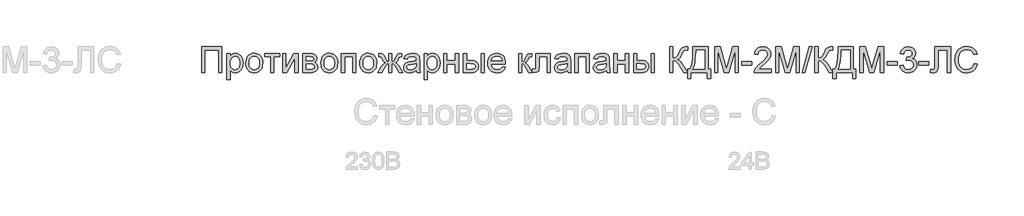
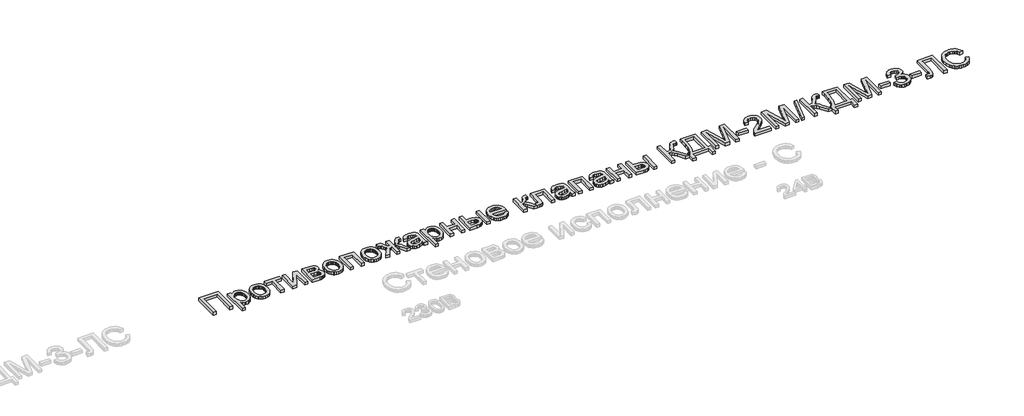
# One storey, part 17 of 23: 1 proxy.
"""IFC4 building model written with IfcOpenShell, lengths in millimetres."""

from ifc_helpers import new_model, si_unit, origin, origin_with_axes, place, context, project, spatial, polyline, outline, extrude, element, save

model = new_model("IFC4")

# Units and contexts
model_context = context("Model", 3, world=origin())
ifc_project = project(units=[si_unit("LENGTHUNIT", "METRE", prefix="MILLI")], contexts=[model_context])

# Site, building, storey
site = spatial("IfcSite", under=ifc_project)
building = spatial("IfcBuilding", under=site)
storey = spatial("IfcBuildingStorey", under=building, Name="Этаж 01", Elevation=0.0)

# Proxy
placement = place(None, origin())
element("IfcBuildingElementProxy", 1, Name="450 мм Arial", ObjectType="450 мм Arial", at=placement, inside=storey, context=model_context, shape_type="SweptSolid", body=[
    extrude(outline(polyline([(15947.7209967, -11762.9519857), (16299.0148583, -11762.9519857), (16299.0148583, -12212.6081285), (16242.8078404, -12212.6081285), (16242.8078404, -11819.1590035), (16003.9280146, -11819.1590035), (16003.9280146, -12212.6081285), (15947.7209967, -12212.6081285), (15947.7209967, -11762.9519857)])), origin_with_axes(), (0.0, 0.0, 1.0), 50.0),
    extrude(outline(polyline([(16390.3512623, -12339.0739187), (16390.3512623, -11882.3918986), (16446.5582802, -11882.3918986), (16446.5582802, -11937.5011231), (16464.8914286, -11910.3170161), (16485.4201636, -11890.8997968), (16509.3520579, -11879.2494652), (16537.8946842, -11875.3660214), (16575.9057778, -11880.8000983), (16609.1414705, -11897.1023291), (16636.2020757, -11923.2846997), (16655.6879071, -11958.3591962), (16667.4617405, -11999.7734491), (16671.3863516, -12044.9750889), (16666.954011, -12093.0447138), (16653.6569895, -12136.0370446), (16631.9206818, -12171.7702171), (16602.1704829, -12198.062367), (16567.5213813, -12214.241096), (16531.0883656, -12219.6340057), (16505.2490554, -12216.0250102), (16482.1816733, -12205.1980236), (16462.435116, -12188.8546256), (16446.5582802, -12168.6963958), (16446.5582802, -12339.0739187), (16390.3512623, -12339.0739187)]), holes=[polyline([(16446.5582802, -12050.1347175), (16448.0780378, -12077.2227676), (16452.6373106, -12100.5234308), (16460.2360988, -12120.036707), (16470.8744021, -12135.7625963), (16483.6808473, -12147.8657676), (16497.7840608, -12156.51089), (16513.1840427, -12161.6979634), (16529.8807929, -12163.4269879), (16546.8176855, -12161.6362125), (16562.4989769, -12156.2638865), (16576.9246672, -12147.3100097), (16590.0947564, -12134.7745823), (16601.069259, -12118.4792127), (16608.9081894, -12098.2455096), (16613.6115476, -12074.073473), (16615.1793337, -12045.9631029), (16613.6492843, -12019.1083339), (16609.059136, -11995.848838), (16601.4088888, -11976.1846152), (16590.6985427, -11960.1156655), (16577.8612221, -11947.6282665), (16563.8300513, -11938.7086958), (16548.6050302, -11933.3569534), (16532.1861589, -11931.5730392), (16515.8187467, -11933.4701633), (16500.4187648, -11939.1615355), (16485.9862133, -11948.6471559), (16472.5210921, -11961.9270245), (16461.1623619, -11978.8227497), (16453.0489831, -11999.1559403), (16448.1809559, -12022.9265963), (16446.5582802, -12050.1347175)])]), origin_with_axes(), (0.0, 0.0, 1.0), 50.0),
    extrude(outline(polyline([(16720.5674922, -12047.5000135), (16723.6070074, -12004.7341026), (16732.7255532, -11967.8825532), (16747.9231294, -11936.9453653), (16769.1997361, -11911.9225388), (16790.6204282, -11895.9290624), (16814.2641518, -11884.5051507), (16840.1309069, -11877.6508037), (16868.2206934, -11875.3660214), (16899.229924, -11878.1482413), (16927.2682514, -11886.4949011), (16952.3356757, -11900.4060008), (16974.4321968, -11919.8815404), (16992.4668827, -11944.2628439), (17005.3488011, -11972.8912352), (17013.0779522, -12005.7667145), (17015.6543359, -12042.8892816), (17011.0984936, -12099.672641), (17005.4036908, -12122.9801653), (16997.4309668, -12142.8982528), (16975.0497056, -12175.2694333), (16944.3526599, -12199.4894983), (16907.8921994, -12214.5978789), (16868.2206934, -12219.6340057), (16836.758623, -12216.8620776), (16808.4595697, -12208.5462932), (16783.3235333, -12194.6866526), (16761.3505139, -12175.2831557), (16743.5079419, -12150.6651405), (16730.7632476, -12121.1619451), (16723.116431, -12086.7735695), (16720.5674922, -12047.5000135)]), holes=[polyline([(16776.77451, -12047.3902342), (16778.4006164, -12074.6532451), (16783.2789354, -12098.2592321), (16791.4094672, -12118.208195), (16802.7922117, -12134.5001339), (16816.6381299, -12147.1556325), (16832.1581829, -12156.1952744), (16849.3523707, -12161.6190595), (16868.2206934, -12163.4269879), (16886.9929591, -12161.6087677), (16904.1185349, -12156.1541071), (16919.5974206, -12147.0630062), (16933.4296164, -12134.335465), (16944.8123609, -12117.8822876), (16952.9428926, -12097.6142785), (16957.8212117, -12073.5314376), (16959.4473181, -12045.6337649), (16957.8109199, -12019.2352662), (16952.9017254, -11996.246788), (16944.7197346, -11976.6683303), (16933.2649474, -11960.4998931), (16919.3812926, -11947.8443946), (16903.9126986, -11938.8047527), (16886.8591655, -11933.3809676), (16868.2206934, -11931.5730392), (16849.3523707, -11933.3741064), (16832.1581829, -11938.7773079), (16816.6381299, -11947.7826437), (16802.7922117, -11960.3901138), (16791.4094672, -11976.6340243), (16783.2789354, -11996.5486812), (16778.4006164, -12020.1340845), (16776.77451, -12047.3902342)])]), origin_with_axes(), (0.0, 0.0, 1.0), 50.0),
    extrude(outline(polyline([(17050.7837221, -11882.3918986), (17317.7670569, -11882.3918986), (17317.7670569, -11938.5989165), (17212.3788984, -11938.5989165), (17212.3788984, -12212.6081285), (17156.1718805, -12212.6081285), (17156.1718805, -11938.5989165), (17050.7837221, -11938.5989165), (17050.7837221, -11882.3918986)])), origin_with_axes(), (0.0, 0.0, 1.0), 50.0),
    extrude(outline(polyline([(17366.9481975, -11882.3918986), (17423.1552153, -11882.3918986), (17423.1552153, -12134.2256856), (17561.2576147, -11882.3918986), (17633.9315323, -11882.3918986), (17633.9315323, -12212.6081285), (17577.7245144, -12212.6081285), (17577.7245144, -11962.3112521), (17440.5003497, -12212.6081285), (17366.9481975, -12212.6081285), (17366.9481975, -11882.3918986)])), origin_with_axes(), (0.0, 0.0, 1.0), 50.0),
    extrude(outline(polyline([(17718.2420591, -11882.3918986), (17842.0731453, -11882.3918986), (17881.8818754, -11884.2718697), (17909.9716619, -11889.9117828), (17930.6376211, -11900.560378), (17948.1748694, -11917.4663951), (17960.154539, -11939.4908735), (17964.1477622, -11965.4948527), (17961.7326169, -11986.4489827), (17954.487181, -12004.5214052), (17942.3840096, -12019.7944547), (17925.3956581, -12032.3504658), (17946.1988414, -12044.0282422), (17963.1597482, -12062.8142303), (17974.4395745, -12087.2264092), (17978.1995166, -12115.7827579), (17975.0776669, -12138.7883891), (17968.6761596, -12158.6241421), (17958.9949948, -12175.2900169), (17946.0341724, -12188.7860135), (17929.7731089, -12199.2081888), (17910.1912206, -12206.6525997), (17887.2885075, -12211.1192463), (17861.0649697, -12212.6081285), (17718.2420591, -12212.6081285), (17718.2420591, -11882.3918986)]), holes=[polyline([(17774.4490769, -12156.4011106), (17843.3904972, -12156.4011106), (17880.9624735, -12153.8624636), (17904.537585, -12146.2465224), (17917.189653, -12132.4006042), (17921.9924988, -12111.172026), (17919.5910759, -12097.1065491), (17912.3868072, -12084.1114207), (17901.3265396, -12073.9431101), (17887.3571196, -12068.3580866), (17837.9015307, -12065.0647066), (17774.4490769, -12065.0647066), (17774.4490769, -12156.4011106)]), polyline([(17774.4490769, -12008.8576888), (17829.9974188, -12008.8576888), (17875.8302898, -12006.0034261), (17898.1154941, -11994.5863756), (17905.4844318, -11985.1453531), (17907.9407443, -11973.9478613), (17903.6319055, -11957.1790684), (17890.7053892, -11946.393249), (17867.3498364, -11940.5474996), (17831.7538881, -11938.5989165), (17774.4490769, -11938.5989165), (17774.4490769, -12008.8576888)])]), origin_with_axes(), (0.0, 0.0, 1.0), 50.0),
    extrude(outline(polyline([(18034.4065345, -12047.5000135), (18037.4460497, -12004.7341026), (18046.5645955, -11967.8825532), (18061.7621717, -11936.9453653), (18083.0387784, -11911.9225388), (18104.4594705, -11895.9290624), (18128.1031941, -11884.5051507), (18153.9699492, -11877.6508037), (18182.0597357, -11875.3660214), (18213.0689663, -11878.1482413), (18241.1072937, -11886.4949011), (18266.174718, -11900.4060008), (18288.2712391, -11919.8815404), (18306.305925, -11944.2628439), (18319.1878434, -11972.8912352), (18326.9169945, -12005.7667145), (18329.4933782, -12042.8892816), (18324.9375359, -12099.672641), (18319.2427331, -12122.9801653), (18311.2700091, -12142.8982528), (18288.8887479, -12175.2694333), (18258.1917022, -12199.4894983), (18221.7312417, -12214.5978789), (18182.0597357, -12219.6340057), (18150.5976653, -12216.8620776), (18122.298612, -12208.5462932), (18097.1625756, -12194.6866526), (18075.1895562, -12175.2831557), (18057.3469842, -12150.6651405), (18044.6022899, -12121.1619451), (18036.9554733, -12086.7735695), (18034.4065345, -12047.5000135)]), holes=[polyline([(18090.6135523, -12047.3902342), (18092.2396587, -12074.6532451), (18097.1179777, -12098.2592321), (18105.2485095, -12118.208195), (18116.631254, -12134.5001339), (18130.4771722, -12147.1556325), (18145.9972252, -12156.1952744), (18163.191413, -12161.6190595), (18182.0597357, -12163.4269879), (18200.8320014, -12161.6087677), (18217.9575771, -12156.1541071), (18233.4364629, -12147.0630062), (18247.2686587, -12134.335465), (18258.6514032, -12117.8822876), (18266.7819349, -12097.6142785), (18271.660254, -12073.5314376), (18273.2863603, -12045.6337649), (18271.6499622, -12019.2352662), (18266.7407677, -11996.246788), (18258.5587769, -11976.6683303), (18247.1039897, -11960.4998931), (18233.2203349, -11947.8443946), (18217.7517409, -11938.8047527), (18200.6982078, -11933.3809676), (18182.0597357, -11931.5730392), (18163.191413, -11933.3741064), (18145.9972252, -11938.7773079), (18130.4771722, -11947.7826437), (18116.631254, -11960.3901138), (18105.2485095, -11976.6340243), (18097.1179777, -11996.5486812), (18092.2396587, -12020.1340845), (18090.6135523, -12047.3902342)])]), origin_with_axes(), (0.0, 0.0, 1.0), 50.0),
    extrude(outline(polyline([(18392.7262733, -11882.3918986), (18645.6578536, -11882.3918986), (18645.6578536, -12212.6081285), (18589.4508358, -12212.6081285), (18589.4508358, -11938.5989165), (18448.9332911, -11938.5989165), (18448.9332911, -12212.6081285), (18392.7262733, -12212.6081285), (18392.7262733, -11882.3918986)])), origin_with_axes(), (0.0, 0.0, 1.0), 50.0),
    extrude(outline(polyline([(18715.9166259, -12047.5000135), (18718.9561412, -12004.7341026), (18728.0746869, -11967.8825532), (18743.2722632, -11936.9453653), (18764.5488699, -11911.9225388), (18785.969562, -11895.9290624), (18809.6132856, -11884.5051507), (18835.4800406, -11877.6508037), (18863.5698271, -11875.3660214), (18894.5790577, -11878.1482413), (18922.6173852, -11886.4949011), (18947.6848095, -11900.4060008), (18969.7813306, -11919.8815404), (18987.8160164, -11944.2628439), (19000.6979349, -11972.8912352), (19008.427086, -12005.7667145), (19011.0034697, -12042.8892816), (19006.4476274, -12099.672641), (19000.7528246, -12122.9801653), (18992.7801006, -12142.8982528), (18970.3988393, -12175.2694333), (18939.7017937, -12199.4894983), (18903.2413331, -12214.5978789), (18863.5698271, -12219.6340057), (18832.1077568, -12216.8620776), (18803.8087034, -12208.5462932), (18778.672667, -12194.6866526), (18756.6996477, -12175.2831557), (18738.8570757, -12150.6651405), (18726.1123814, -12121.1619451), (18718.4655648, -12086.7735695), (18715.9166259, -12047.5000135)]), holes=[polyline([(18772.1236438, -12047.3902342), (18773.7497501, -12074.6532451), (18778.6280692, -12098.2592321), (18786.7586009, -12118.208195), (18798.1413454, -12134.5001339), (18811.9872636, -12147.1556325), (18827.5073166, -12156.1952744), (18844.7015045, -12161.6190595), (18863.5698271, -12163.4269879), (18882.3420929, -12161.6087677), (18899.4676686, -12156.1541071), (18914.9465544, -12147.0630062), (18928.7787502, -12134.335465), (18940.1614946, -12117.8822876), (18948.2920264, -12097.6142785), (18953.1703455, -12073.5314376), (18954.7964518, -12045.6337649), (18953.1600536, -12019.2352662), (18948.2508591, -11996.246788), (18940.0688683, -11976.6683303), (18928.6140812, -11960.4998931), (18914.7304263, -11947.8443946), (18899.2618324, -11938.8047527), (18882.2082993, -11933.3809676), (18863.5698271, -11931.5730392), (18844.7015045, -11933.3741064), (18827.5073166, -11938.7773079), (18811.9872636, -11947.7826437), (18798.1413454, -11960.3901138), (18786.7586009, -11976.6340243), (18778.6280692, -11996.5486812), (18773.7497501, -12020.1340845), (18772.1236438, -12047.3902342)])]), origin_with_axes(), (0.0, 0.0, 1.0), 50.0),
    extrude(outline(polyline([(19277.9868045, -11882.3918986), (19277.9868045, -12022.9094432), (19297.8156963, -12020.0140134), (19310.755935, -12011.3277237), (19341.7685962, -11951.2235396), (19361.1172034, -11913.7613426), (19378.764231, -11893.5893904), (19400.1986455, -11885.1912716), (19431.3485309, -11882.3918986), (19453.6337352, -11882.3918986), (19453.6337352, -11938.9282545), (19438.1548495, -11938.5989165), (19419.6021424, -11940.0534926), (19409.1731059, -11944.417221), (19389.0834882, -11980.8639592), (19376.9391496, -12005.2898605), (19365.7553802, -12020.8236359), (19352.074131, -12031.4447863), (19332.437353, -12041.1328123), (19350.9283092, -12049.0437854), (19369.1859843, -12063.0063442), (19387.2103783, -12083.0204886), (19405.0014913, -12109.0862187), (19467.6854897, -12212.6081285), (19403.245022, -12212.6081285), (19341.5490375, -12110.51335), (19324.6841877, -12083.7134706), (19310.097259, -12068.0836382), (19295.3456613, -12060.5500316), (19277.9868045, -12058.0388294), (19277.9868045, -12212.6081285), (19221.7797866, -12212.6081285), (19221.7797866, -12058.0388294), (19204.5581539, -12060.4951419), (19189.7791114, -12067.8640796), (19175.0824034, -12083.3841326), (19158.1077742, -12110.2937913), (19096.4117898, -12212.6081285), (19032.0811014, -12212.6081285), (19094.5455411, -12109.0862187), (19112.4876006, -12083.0204886), (19130.6354964, -12063.0063442), (19148.9892284, -12049.0437854), (19167.5487967, -12041.1328123), (19146.0869374, -12030.3744378), (19132.1998519, -12018.7378286), (19119.5752287, -11998.2914281), (19101.9007563, -11961.1036795), (19094.7376549, -11948.7260598), (19087.0805466, -11942.1118551), (19062.8193142, -11938.2695785), (19046.1328558, -11938.5989165), (19046.1328558, -11882.3918986), (19054.5858644, -11882.3918986), (19103.8767843, -11885.9048372), (19117.4070869, -11891.3938038), (19129.4553686, -11900.8348263), (19142.2721056, -11919.1405299), (19158.1077742, -11951.2235396), (19188.7910974, -12010.9434961), (19201.7313361, -12019.9179564), (19221.7797866, -12022.9094432), (19221.7797866, -11882.3918986), (19277.9868045, -11882.3918986)])), origin_with_axes(), (0.0, 0.0, 1.0), 50.0),
    extrude(outline(polyline([(19706.5653156, -12170.4528651), (19679.7105465, -12193.4790799), (19652.0598774, -12208.5462932), (19622.9820769, -12216.8620776), (19591.8459139, -12219.6340057), (19566.8196569, -12217.9667321), (19544.8740823, -12212.9649113), (19526.0091903, -12204.6285433), (19510.2249808, -12192.9576281), (19497.761596, -12178.6931762), (19488.8591783, -12162.576198), (19483.5177277, -12144.6066937), (19481.7372442, -12124.7846631), (19484.4268378, -12101.4839999), (19492.4956187, -12080.3240337), (19504.9418504, -12062.210444), (19520.7637966, -12048.0489102), (19539.3576709, -12037.3454254), (19560.119687, -12029.6059825), (19608.751931, -12021.1529739), (19666.2214112, -12012.2608481), (19706.2359776, -12001.8318115), (19706.5653156, -11989.3169677), (19702.6955941, -11964.2323904), (19691.0864298, -11947.8203803), (19665.1236178, -11935.6348745), (19628.951328, -11931.5730392), (19595.4686319, -11934.2763553), (19572.0856342, -11942.3863034), (19556.1401863, -11957.3849046), (19544.9701393, -11980.7541798), (19488.7631214, -11973.7283026), (19498.5197595, -11942.9900897), (19513.0792434, -11918.8386367), (19533.8000922, -11900.3682642), (19562.0408253, -11886.6732925), (19596.5801476, -11878.1928392), (19636.1967639, -11875.3660214), (19674.1941351, -11877.8635012), (19704.3148393, -11885.3559406), (19727.0254385, -11896.6220445), (19742.7924951, -11910.4405179), (19753.2489764, -11927.5249264), (19760.0278501, -11948.5888356), (19762.7723334, -11997.7699763), (19762.7723334, -12067.6994106), (19765.6265961, -12165.3481262), (19776.8240879, -12212.6081285), (19720.61707, -12212.6081285), (19711.6151648, -12193.0674074), (19706.5653156, -12170.4528651)]), holes=[polyline([(19706.5653156, -12058.0388294), (19668.8012255, -12067.3975174), (19615.8875876, -12075.2741845), (19567.5297919, -12084.385869), (19554.946336, -12090.6158461), (19545.6288152, -12099.2060788), (19539.8654003, -12109.4978911), (19537.944262, -12120.8326071), (19542.129599, -12137.5465104), (19554.6856101, -12151.241482), (19575.3378469, -12160.3806114), (19603.8118611, -12163.4269879), (19634.0011773, -12160.0649958), (19660.6775549, -12149.9790197), (19682.3040833, -12135.1176427), (19697.3438517, -12117.4294479), (19704.0129461, -12099.2060788), (19706.2359776, -12073.9568325), (19706.5653156, -12058.0388294)])]), origin_with_axes(), (0.0, 0.0, 1.0), 50.0),
    extrude(outline(polyline([(19840.056983, -12339.0739187), (19840.056983, -11882.3918986), (19896.2640008, -11882.3918986), (19896.2640008, -11937.5011231), (19914.5971492, -11910.3170161), (19935.1258843, -11890.8997968), (19959.0577786, -11879.2494652), (19987.6004048, -11875.3660214), (20025.6114985, -11880.8000983), (20058.8471911, -11897.1023291), (20085.9077964, -11923.2846997), (20105.3936278, -11958.3591962), (20117.1674611, -11999.7734491), (20121.0920722, -12044.9750889), (20116.6597317, -12093.0447138), (20103.3627102, -12136.0370446), (20081.6264025, -12171.7702171), (20051.8762036, -12198.062367), (20017.227102, -12214.241096), (19980.7940863, -12219.6340057), (19954.9547761, -12216.0250102), (19931.887394, -12205.1980236), (19912.1408367, -12188.8546256), (19896.2640008, -12168.6963958), (19896.2640008, -12339.0739187), (19840.056983, -12339.0739187)]), holes=[polyline([(19896.2640008, -12050.1347175), (19897.7837585, -12077.2227676), (19902.3430313, -12100.5234308), (19909.9418194, -12120.036707), (19920.5801228, -12135.7625963), (19933.386568, -12147.8657676), (19947.4897815, -12156.51089), (19962.8897634, -12161.6979634), (19979.5865136, -12163.4269879), (19996.5234061, -12161.6362125), (20012.2046976, -12156.2638865), (20026.6303879, -12147.3100097), (20039.8004771, -12134.7745823), (20050.7749797, -12118.4792127), (20058.6139101, -12098.2455096), (20063.3172683, -12074.073473), (20064.8850544, -12045.9631029), (20063.3550049, -12019.1083339), (20058.7648566, -11995.848838), (20051.1146095, -11976.1846152), (20040.4042634, -11960.1156655), (20027.5669428, -11947.6282665), (20013.535772, -11938.7086958), (19998.3107509, -11933.3569534), (19981.8918796, -11931.5730392), (19965.5244673, -11933.4701633), (19950.1244855, -11939.1615355), (19935.6919339, -11948.6471559), (19922.2268128, -11961.9270245), (19910.8680826, -11978.8227497), (19902.7547038, -11999.1559403), (19897.8866766, -12022.9265963), (19896.2640008, -12050.1347175)])]), origin_with_axes(), (0.0, 0.0, 1.0), 50.0),
    extrude(outline(polyline([(20184.3249673, -11882.3918986), (20240.5319852, -11882.3918986), (20240.5319852, -12008.8576888), (20388.075407, -12008.8576888), (20388.075407, -11882.3918986), (20444.2824249, -11882.3918986), (20444.2824249, -12212.6081285), (20388.075407, -12212.6081285), (20388.075407, -12065.0647066), (20240.5319852, -12065.0647066), (20240.5319852, -12212.6081285), (20184.3249673, -12212.6081285), (20184.3249673, -11882.3918986)])), origin_with_axes(), (0.0, 0.0, 1.0), 50.0),
    extrude(outline(polyline([(20528.5929517, -11882.3918986), (20584.7999695, -11882.3918986), (20584.7999695, -12001.8318115), (20654.2902865, -12001.8318115), (20686.2669475, -12003.5917115), (20714.3533034, -12008.8714112), (20738.5493542, -12017.6709107), (20758.8551, -12029.9902101), (20774.9206191, -12045.4039144), (20786.3959898, -12063.4866287), (20793.2812123, -12084.238353), (20795.5762865, -12107.6590873), (20793.6517176, -12128.554897), (20787.8780108, -12147.87949), (20778.2551663, -12165.6328663), (20764.7831839, -12181.8150259), (20747.0846973, -12195.2870083), (20724.7823399, -12204.9098528), (20697.8761118, -12210.6835596), (20666.366013, -12212.6081285), (20528.5929517, -12212.6081285), (20528.5929517, -11882.3918986)]), holes=[polyline([(20584.7999695, -12156.4011106), (20642.543898, -12156.4011106), (20687.3064205, -12153.4507911), (20717.0840643, -12144.5998325), (20733.7979675, -12129.4914519), (20739.3692686, -12107.7688667), (20735.2388213, -12089.4082734), (20722.8474792, -12073.1883772), (20712.0925353, -12066.56045), (20696.349493, -12061.8262163), (20649.8991132, -12058.0388294), (20584.7999695, -12058.0388294), (20584.7999695, -12156.4011106)])]), origin_with_axes(), (0.0, 0.0, 1.0), 50.0),
    extrude(outline(polyline([(20837.7315499, -11882.3918986), (20893.9385677, -11882.3918986), (20893.9385677, -12212.6081285), (20837.7315499, -12212.6081285), (20837.7315499, -11882.3918986)])), origin_with_axes(), (0.0, 0.0, 1.0), 50.0),
    extrude(outline(polyline([(21209.4443671, -12114.2458472), (21264.5535917, -12121.2717245), (21256.1040137, -12143.3442314), (21244.697255, -12162.7957567), (21230.3333156, -12179.6263005), (21213.0121954, -12193.8358628), (21192.9122859, -12205.1225503), (21170.2119785, -12213.18447), (21144.9112731, -12218.0216218), (21117.0101698, -12219.6340057), (21082.1346484, -12216.8517858), (21051.0602363, -12208.505126), (21023.7869335, -12194.5940263), (21000.3147402, -12175.1184867), (20981.4395563, -12150.6205427), (20967.9572821, -12121.6422297), (20959.8679176, -12088.1835478), (20957.1714628, -12050.2444968), (20959.8953625, -12011.0189694), (20968.0670615, -11976.4453411), (20981.6865598, -11946.523612), (21000.7538575, -11921.253782), (21024.1643, -11901.1778867), (21050.8132328, -11886.8379615), (21080.7006558, -11878.2340064), (21113.8265692, -11875.3660214), (21145.8855647, -11878.2271452), (21174.8776001, -11886.8105167), (21200.8026754, -11901.1161359), (21223.6607906, -11921.1440027), (21242.3198464, -11946.358943), (21255.6477434, -11976.2257824), (21263.6444816, -12010.744521), (21266.310061, -12049.9151588), (21265.980723, -12065.0647066), (21013.3784806, -12065.0647066), (21016.6341239, -12087.4939963), (21023.1076739, -12107.1376355), (21032.7991305, -12123.9956241), (21045.7084938, -12138.0679622), (21061.1221981, -12149.1625359), (21078.3266778, -12157.0872315), (21097.3219328, -12161.8420488), (21118.1079631, -12163.4269879), (21148.022831, -12160.4903907), (21173.2171877, -12151.6805994), (21193.691033, -12136.4487171), (21209.4443671, -12114.2458472)]), holes=[polyline([(21013.3784806, -12008.8576888), (21210.1030431, -12008.8576888), (21202.5008244, -11979.1623795), (21187.5982801, -11957.9200788), (21172.2703409, -11946.393249), (21154.8291496, -11938.1597991), (21135.2747061, -11933.2197292), (21113.6070105, -11931.5730392), (21075.7194187, -11936.8287247), (21044.3911419, -11952.5957813), (21031.9346183, -11963.9956787), (21022.6136669, -11977.1726291), (21016.4282877, -11992.1266325), (21013.3784806, -12008.8576888)])]), origin_with_axes(), (0.0, 0.0, 1.0), 50.0),
    extrude(outline(polyline([(21800.2767306, -11882.3918986), (22053.2083109, -11882.3918986), (22053.2083109, -12212.2787905), (21997.0012931, -12212.2787905), (21997.0012931, -11938.5989165), (21856.4837484, -11938.5989165), (21856.4837484, -12096.1322575), (21852.6963615, -12168.8061751), (21845.6018722, -12185.2593525), (21831.8931781, -12199.4894983), (21811.0899947, -12209.3284709), (21782.7120375, -12212.6081285), (21737.0438355, -12209.7538659), (21737.0438355, -12156.4011106), (21762.1833025, -12156.4011106), (21787.5972178, -12152.9430617), (21793.9506966, -12148.4695539), (21797.7518059, -12141.9651285), (21800.2767306, -12092.9486569), (21800.2767306, -11882.3918986)])), origin_with_axes(), (0.0, 0.0, 1.0), 50.0),
    extrude(outline(polyline([(21498.1640096, -11882.3918986), (21554.3710275, -11882.3918986), (21554.3710275, -12022.9094432), (21577.2325733, -12020.3845186), (21592.0253383, -12012.8097447), (21605.1165236, -11993.049465), (21622.8733305, -11953.9680229), (21637.1858109, -11922.0085149), (21648.5068044, -11903.195082), (21659.0730651, -11892.9444369), (21671.1213468, -11886.6732925), (21712.2337065, -11882.3918986), (21722.992081, -11882.3918986), (21722.992081, -11938.9282545), (21707.8425332, -11938.5989165), (21690.2778402, -11940.0809374), (21680.3977003, -11944.5270004), (21661.0765379, -11981.5226352), (21649.2066477, -12006.1818176), (21638.4071059, -12021.5372016), (21625.329643, -12031.7878467), (21606.6259894, -12041.1328123), (21624.437686, -12049.0437854), (21642.0847135, -12063.0063442), (21659.5670721, -12083.0204886), (21676.8847617, -12109.0862187), (21737.0438355, -12212.6081285), (21673.1522644, -12212.6081285), (21614.2007633, -12111.2818053), (21598.2827602, -12084.3172569), (21584.5603437, -12068.4129762), (21570.7007031, -12060.6323661), (21554.3710275, -12058.0388294), (21554.3710275, -12212.6081285), (21498.1640096, -12212.6081285), (21498.1640096, -11882.3918986)])), origin_with_axes(), (0.0, 0.0, 1.0), 50.0),
    extrude(outline(polyline([(22348.2951546, -12170.4528651), (22321.4403856, -12193.4790799), (22293.7897164, -12208.5462932), (22264.7119159, -12216.8620776), (22233.575753, -12219.6340057), (22208.5494959, -12217.9667321), (22186.6039214, -12212.9649113), (22167.7390294, -12204.6285433), (22151.9548198, -12192.9576281), (22139.4914351, -12178.6931762), (22130.5890174, -12162.576198), (22125.2475668, -12144.6066937), (22123.4670832, -12124.7846631), (22126.1566768, -12101.4839999), (22134.2254577, -12080.3240337), (22146.6716895, -12062.210444), (22162.4936357, -12048.0489102), (22181.08751, -12037.3454254), (22201.8495261, -12029.6059825), (22250.48177, -12021.1529739), (22307.9512502, -12012.2608481), (22347.9658166, -12001.8318115), (22348.2951546, -11989.3169677), (22344.4254332, -11964.2323904), (22332.8162689, -11947.8203803), (22306.8534569, -11935.6348745), (22270.6811671, -11931.5730392), (22237.1984709, -11934.2763553), (22213.8154732, -11942.3863034), (22197.8700253, -11957.3849046), (22186.6999783, -11980.7541798), (22130.4929605, -11973.7283026), (22140.2495986, -11942.9900897), (22154.8090824, -11918.8386367), (22175.5299313, -11900.3682642), (22203.7706644, -11886.6732925), (22238.3099866, -11878.1928392), (22277.926603, -11875.3660214), (22315.9239742, -11877.8635012), (22346.0446783, -11885.3559406), (22368.7552776, -11896.6220445), (22384.5223341, -11910.4405179), (22394.9788155, -11927.5249264), (22401.7576892, -11948.5888356), (22404.5021725, -11997.7699763), (22404.5021725, -12067.6994106), (22407.3564351, -12165.3481262), (22418.5539269, -12212.6081285), (22362.3469091, -12212.6081285), (22353.3450039, -12193.0674074), (22348.2951546, -12170.4528651)]), holes=[polyline([(22348.2951546, -12058.0388294), (22310.5310645, -12067.3975174), (22257.6174266, -12075.2741845), (22209.259631, -12084.385869), (22196.6761751, -12090.6158461), (22187.3586543, -12099.2060788), (22181.5952394, -12109.4978911), (22179.6741011, -12120.8326071), (22183.8594381, -12137.5465104), (22196.4154492, -12151.241482), (22217.0676859, -12160.3806114), (22245.5417001, -12163.4269879), (22275.7310163, -12160.0649958), (22302.407394, -12149.9790197), (22324.0339223, -12135.1176427), (22339.0736908, -12117.4294479), (22345.7427852, -12099.2060788), (22347.9658166, -12073.9568325), (22348.2951546, -12058.0388294)])]), origin_with_axes(), (0.0, 0.0, 1.0), 50.0),
    extrude(outline(polyline([(22481.786822, -11882.3918986), (22734.7184024, -11882.3918986), (22734.7184024, -12212.6081285), (22678.5113845, -12212.6081285), (22678.5113845, -11938.5989165), (22537.9938399, -11938.5989165), (22537.9938399, -12212.6081285), (22481.786822, -12212.6081285), (22481.786822, -11882.3918986)])), origin_with_axes(), (0.0, 0.0, 1.0), 50.0),
    extrude(outline(polyline([(23029.8052461, -12170.4528651), (23002.9504771, -12193.4790799), (22975.2998079, -12208.5462932), (22946.2220074, -12216.8620776), (22915.0858444, -12219.6340057), (22890.0595874, -12217.9667321), (22868.1140128, -12212.9649113), (22849.2491208, -12204.6285433), (22833.4649113, -12192.9576281), (22821.0015265, -12178.6931762), (22812.0991088, -12162.576198), (22806.7576582, -12144.6066937), (22804.9771747, -12124.7846631), (22807.6667683, -12101.4839999), (22815.7355492, -12080.3240337), (22828.1817809, -12062.210444), (22844.0037271, -12048.0489102), (22862.5976014, -12037.3454254), (22883.3596175, -12029.6059825), (22931.9918615, -12021.1529739), (22989.4613417, -12012.2608481), (23029.4759081, -12001.8318115), (23029.8052461, -11989.3169677), (23025.9355246, -11964.2323904), (23014.3263603, -11947.8203803), (22988.3635484, -11935.6348745), (22952.1912585, -11931.5730392), (22918.7085624, -11934.2763553), (22895.3255647, -11942.3863034), (22879.3801168, -11957.3849046), (22868.2100698, -11980.7541798), (22812.0030519, -11973.7283026), (22821.75969, -11942.9900897), (22836.3191739, -11918.8386367), (22857.0400228, -11900.3682642), (22885.2807558, -11886.6732925), (22919.8200781, -11878.1928392), (22959.4366944, -11875.3660214), (22997.4340656, -11877.8635012), (23027.5547698, -11885.3559406), (23050.265369, -11896.6220445), (23066.0324256, -11910.4405179), (23076.4889069, -11927.5249264), (23083.2677806, -11948.5888356), (23086.0122639, -11997.7699763), (23086.0122639, -12067.6994106), (23088.8665266, -12165.3481262), (23100.0640184, -12212.6081285), (23043.8570006, -12212.6081285), (23034.8550953, -12193.0674074), (23029.8052461, -12170.4528651)]), holes=[polyline([(23029.8052461, -12058.0388294), (22992.041156, -12067.3975174), (22939.1275181, -12075.2741845), (22890.7697224, -12084.385869), (22878.1862665, -12090.6158461), (22868.8687458, -12099.2060788), (22863.1053308, -12109.4978911), (22861.1841925, -12120.8326071), (22865.3695296, -12137.5465104), (22877.9255406, -12151.241482), (22898.5777774, -12160.3806114), (22927.0517916, -12163.4269879), (22957.2411078, -12160.0649958), (22983.9174854, -12149.9790197), (23005.5440138, -12135.1176427), (23020.5837822, -12117.4294479), (23027.2528766, -12099.2060788), (23029.4759081, -12073.9568325), (23029.8052461, -12058.0388294)])]), origin_with_axes(), (0.0, 0.0, 1.0), 50.0),
    extrude(outline(polyline([(23163.2969135, -11882.3918986), (23219.5039313, -11882.3918986), (23219.5039313, -12008.8576888), (23367.0473532, -12008.8576888), (23367.0473532, -11882.3918986), (23423.2543711, -11882.3918986), (23423.2543711, -12212.6081285), (23367.0473532, -12212.6081285), (23367.0473532, -12065.0647066), (23219.5039313, -12065.0647066), (23219.5039313, -12212.6081285), (23163.2969135, -12212.6081285), (23163.2969135, -11882.3918986)])), origin_with_axes(), (0.0, 0.0, 1.0), 50.0),
    extrude(outline(polyline([(23507.5648978, -11882.3918986), (23563.7719157, -11882.3918986), (23563.7719157, -12001.8318115), (23633.2622327, -12001.8318115), (23665.2388936, -12003.5917115), (23693.3252496, -12008.8714112), (23717.5213004, -12017.6709107), (23737.8270462, -12029.9902101), (23753.8925652, -12045.4039144), (23765.367936, -12063.4866287), (23772.2531585, -12084.238353), (23774.5482326, -12107.6590873), (23772.6236637, -12128.554897), (23766.849957, -12147.87949), (23757.2271124, -12165.6328663), (23743.7551301, -12181.8150259), (23726.0566434, -12195.2870083), (23703.7542861, -12204.9098528), (23676.848058, -12210.6835596), (23645.3379592, -12212.6081285), (23507.5648978, -12212.6081285), (23507.5648978, -11882.3918986)]), holes=[polyline([(23563.7719157, -12156.4011106), (23621.5158442, -12156.4011106), (23666.2783667, -12153.4507911), (23696.0560104, -12144.5998325), (23712.7699137, -12129.4914519), (23718.3412148, -12107.7688667), (23714.2107674, -12089.4082734), (23701.8194253, -12073.1883772), (23691.0644814, -12066.56045), (23675.3214391, -12061.8262163), (23628.8710594, -12058.0388294), (23563.7719157, -12058.0388294), (23563.7719157, -12156.4011106)])]), origin_with_axes(), (0.0, 0.0, 1.0), 50.0),
    extrude(outline(polyline([(23816.703496, -11882.3918986), (23872.9105139, -11882.3918986), (23872.9105139, -12212.6081285), (23816.703496, -12212.6081285), (23816.703496, -11882.3918986)])), origin_with_axes(), (0.0, 0.0, 1.0), 50.0),
    extrude(outline(polyline([(24547.3947281, -11762.9519857), (24814.3780629, -11762.9519857), (24814.3780629, -12156.4011106), (24856.5333263, -12156.4011106), (24856.5333263, -12317.996287), (24800.3263084, -12317.996287), (24800.3263084, -12212.6081285), (24512.2653419, -12212.6081285), (24512.2653419, -12317.996287), (24456.0583241, -12317.996287), (24456.0583241, -12212.6081285), (24456.0583241, -12156.4011106), (24491.1877102, -12156.4011106), (24504.3612301, -12133.5001128), (24515.7782806, -12105.4154722), (24533.3429736, -12033.6952626), (24543.8817895, -11941.2404816), (24547.3947281, -11828.0511294), (24547.3947281, -11762.9519857)]), holes=[polyline([(24758.171045, -11819.1590035), (24603.6017459, -11819.1590035), (24603.6017459, -11841.7735459), (24600.7474833, -11908.4370451), (24592.1846954, -11995.7939483), (24585.1039285, -12042.4707479), (24575.2786784, -12084.7975415), (24562.7089449, -12122.7743291), (24547.3947281, -12156.4011106), (24758.171045, -12156.4011106), (24758.171045, -11819.1590035)])]), origin_with_axes(), (0.0, 0.0, 1.0), 50.0),
    extrude(outline(polyline([(24139.8938487, -11762.9519857), (24196.1008665, -11762.9519857), (24196.1008665, -11959.6765481), (24234.1531274, -11955.9577733), (24258.9495339, -11944.8014487), (24278.9979844, -11918.550466), (24302.806377, -11869.5477168), (24333.8190382, -11806.6990494), (24348.7764721, -11789.6695305), (24368.9484243, -11775.5766088), (24392.8940411, -11766.1081415), (24419.1724686, -11762.9519857), (24456.0583241, -11763.6106617), (24456.0583241, -11819.8176795), (24443.6532596, -11819.4883415), (24431.2481951, -11819.1590035), (24405.5049418, -11822.534718), (24387.3364624, -11832.6618613), (24371.6929076, -11853.9316068), (24353.9635456, -11890.5155692), (24332.2135155, -11936.0739918), (24314.1685378, -11960.9939001), (24296.3705637, -11974.1125303), (24275.361544, -11984.2671185), (24297.1321578, -11993.5297496), (24318.7518249, -12009.6810338), (24340.2205455, -12032.720971), (24361.5383195, -12062.6495613), (24456.0583241, -12212.6081285), (24390.849401, -12212.6081285), (24310.9300475, -12085.9227797), (24280.0683329, -12045.2907045), (24254.66814, -12019.7807323), (24228.6916056, -12006.3190417), (24196.1008665, -12001.8318115), (24196.1008665, -12212.6081285), (24139.8938487, -12212.6081285), (24139.8938487, -11762.9519857)])), origin_with_axes(), (0.0, 0.0, 1.0), 50.0),
    extrude(outline(polyline([(24926.7920986, -12212.6081285), (24926.7920986, -11762.9519857), (25023.5076899, -11762.9519857), (25115.5027699, -12079.8849164), (25134.0554769, -12146.0818534), (25154.1450946, -12074.3959498), (25244.603264, -11762.9519857), (25341.3188553, -11762.9519857), (25341.3188553, -12212.6081285), (25285.1118374, -12212.6081285), (25285.1118374, -11819.1590035), (25172.148905, -12212.6081285), (25095.9620488, -12212.6081285), (24982.9991165, -11819.1590035), (24982.9991165, -12212.6081285), (24926.7920986, -12212.6081285)])), origin_with_axes(), (0.0, 0.0, 1.0), 50.0),
    extrude(outline(polyline([(25404.5517503, -12079.1164611), (25404.5517503, -12022.9094432), (25580.1986811, -12022.9094432), (25580.1986811, -12079.1164611), (25404.5517503, -12079.1164611)])), origin_with_axes(), (0.0, 0.0, 1.0), 50.0),
    extrude(outline(polyline([(25917.4407882, -12156.4011106), (25917.4407882, -12212.6081285), (25622.3539445, -12212.6081285), (25623.588962, -12192.8204039), (25628.3918078, -12173.8560244), (25642.2514484, -12143.5706512), (25662.5331799, -12114.1909576), (25691.8717063, -12083.4390223), (25732.9017316, -12049.0369242), (25793.5548124, -11995.1627171), (25829.9466608, -11955.3951542), (25848.1425851, -11923.1200307), (25854.2078932, -11891.7231418), (25848.4856455, -11863.5784656), (25831.3189025, -11840.1817455), (25804.9306956, -11824.414689), (25771.5440564, -11819.1590035), (25736.4832823, -11824.2911873), (25721.8860618, -11830.706417), (25709.2442856, -11839.6877386), (25699.0176547, -11850.9332589), (25691.6658701, -11864.1410847), (25687.1889317, -11879.3112161), (25685.5868396, -11896.4436531), (25629.3798218, -11889.4177758), (25634.213543, -11860.4017262), (25643.0061813, -11835.0495618), (25655.7577368, -11813.3612826), (25672.4682095, -11795.3368885), (25692.7533716, -11781.1684935), (25716.2289956, -11771.0482114), (25742.8950814, -11764.9760421), (25772.751629, -11762.9519857), (25802.8757638, -11765.202462), (25829.6859349, -11771.9538909), (25853.1821425, -11783.2062724), (25873.3643865, -11798.9596065), (25889.573991, -11818.0474878), (25901.1522799, -11839.3035109), (25908.0992532, -11862.7276758), (25910.414911, -11888.3199825), (25907.9174312, -11915.2021964), (25900.4249918, -11941.6178481), (25887.1279703, -11968.4863395), (25867.216744, -11996.7270726), (25835.4767947, -12030.4430499), (25786.6936041, -12073.7372738), (25722.0335777, -12127.8035947), (25696.6745521, -12156.4011106), (25917.4407882, -12156.4011106)])), origin_with_axes(), (0.0, 0.0, 1.0), 50.0),
    extrude(outline(polyline([(25994.7254378, -12212.6081285), (25994.7254378, -11762.9519857), (26091.4410291, -11762.9519857), (26183.4361091, -12079.8849164), (26201.9888161, -12146.0818534), (26222.0784338, -12074.3959498), (26312.5366032, -11762.9519857), (26409.2521944, -11762.9519857), (26409.2521944, -12212.6081285), (26353.0451766, -12212.6081285), (26353.0451766, -11819.1590035), (26240.0822442, -12212.6081285), (26163.895388, -12212.6081285), (26050.9324556, -11819.1590035), (26050.9324556, -12212.6081285), (25994.7254378, -12212.6081285)])), origin_with_axes(), (0.0, 0.0, 1.0), 50.0),
    extrude(outline(polyline([(26458.4333351, -12212.6081285), (26584.8991252, -11762.9519857), (26635.6171765, -11762.9519857), (26509.1513863, -12212.6081285), (26458.4333351, -12212.6081285)])), origin_with_axes(), (0.0, 0.0, 1.0), 50.0),
    extrude(outline(polyline([(26683.2614065, -11762.9519857), (26739.4684243, -11762.9519857), (26739.4684243, -11959.6765481), (26777.5206852, -11955.9577733), (26802.3170918, -11944.8014487), (26822.3655422, -11918.550466), (26846.1739348, -11869.5477168), (26877.186596, -11806.6990494), (26892.14403, -11789.6695305), (26912.3159822, -11775.5766088), (26936.2615989, -11766.1081415), (26962.5400264, -11762.9519857), (26999.4258819, -11763.6106617), (26999.4258819, -11819.8176795), (26987.0208174, -11819.4883415), (26974.6157529, -11819.1590035), (26948.8724996, -11822.534718), (26930.7040202, -11832.6618613), (26915.0604655, -11853.9316068), (26897.3311034, -11890.5155692), (26875.5810733, -11936.0739918), (26857.5360956, -11960.9939001), (26839.7381215, -11974.1125303), (26818.7291018, -11984.2671185), (26840.4997156, -11993.5297496), (26862.1193827, -12009.6810338), (26883.5881033, -12032.720971), (26904.9058773, -12062.6495613), (26999.4258819, -12212.6081285), (26934.2169588, -12212.6081285), (26854.2976053, -12085.9227797), (26823.4358907, -12045.2907045), (26798.0356978, -12019.7807323), (26772.0591634, -12006.3190417), (26739.4684243, -12001.8318115), (26739.4684243, -12212.6081285), (26683.2614065, -12212.6081285), (26683.2614065, -11762.9519857)])), origin_with_axes(), (0.0, 0.0, 1.0), 50.0),
    extrude(outline(polyline([(27090.7622859, -11762.9519857), (27357.7456207, -11762.9519857), (27357.7456207, -12156.4011106), (27399.9008841, -12156.4011106), (27399.9008841, -12317.996287), (27343.6938662, -12317.996287), (27343.6938662, -12212.6081285), (27055.6328997, -12212.6081285), (27055.6328997, -12317.996287), (26999.4258819, -12317.996287), (26999.4258819, -12212.6081285), (26999.4258819, -12156.4011106), (27034.5552681, -12156.4011106), (27047.7287879, -12133.5001128), (27059.1458384, -12105.4154722), (27076.7105314, -12033.6952626), (27087.2493473, -11941.2404816), (27090.7622859, -11828.0511294), (27090.7622859, -11762.9519857)]), holes=[polyline([(27301.5386029, -11819.1590035), (27146.9693038, -11819.1590035), (27146.9693038, -11841.7735459), (27144.1150411, -11908.4370451), (27135.5522533, -11995.7939483), (27128.4714864, -12042.4707479), (27118.6462362, -12084.7975415), (27106.0765027, -12122.7743291), (27090.7622859, -12156.4011106), (27301.5386029, -12156.4011106), (27301.5386029, -11819.1590035)])]), origin_with_axes(), (0.0, 0.0, 1.0), 50.0),
    extrude(outline(polyline([(27470.1596564, -12212.6081285), (27470.1596564, -11762.9519857), (27566.8752477, -11762.9519857), (27658.8703277, -12079.8849164), (27677.4230347, -12146.0818534), (27697.5126524, -12074.3959498), (27787.9708218, -11762.9519857), (27884.6864131, -11762.9519857), (27884.6864131, -12212.6081285), (27828.4793952, -12212.6081285), (27828.4793952, -11819.1590035), (27715.5164629, -12212.6081285), (27639.3296066, -12212.6081285), (27526.3666743, -11819.1590035), (27526.3666743, -12212.6081285), (27470.1596564, -12212.6081285)])), origin_with_axes(), (0.0, 0.0, 1.0), 50.0),
    extrude(outline(polyline([(27947.9193082, -12079.1164611), (27947.9193082, -12022.9094432), (28123.5662389, -12022.9094432), (28123.5662389, -12079.1164611), (27947.9193082, -12079.1164611)])), origin_with_axes(), (0.0, 0.0, 1.0), 50.0),
    extrude(outline(polyline([(28172.7473796, -12093.1682155), (28228.9543974, -12086.1423383), (28241.5378533, -12121.4638383), (28259.9670586, -12145.3133981), (28285.1476928, -12158.8985904), (28317.9854355, -12163.4269879), (28338.3495015, -12161.8694936), (28356.5179809, -12157.1970108), (28372.4908737, -12149.4095394), (28386.2681798, -12138.5070796), (28397.3627535, -12125.3061149), (28405.287449, -12110.6231293), (28410.0422663, -12094.4581227), (28411.6272054, -12076.8110951), (28410.0559887, -12060.0045655), (28405.3423387, -12044.714363), (28397.4862553, -12030.9404875), (28386.4877385, -12018.682939), (28373.0672152, -12008.6209771), (28357.9451122, -12001.4338615), (28322.5961674, -11995.684169), (28283.1853873, -12001.8318115), (28289.4428092, -11945.6247937), (28298.4447144, -11946.2834697), (28332.1195244, -11942.2490792), (28362.2265061, -11930.1459079), (28374.6178482, -11920.9930561), (28383.4688068, -11909.6720625), (28388.779382, -11896.1829272), (28390.5495737, -11880.52565), (28385.41739, -11856.2506952), (28370.0208387, -11836.5590276), (28346.5280617, -11823.5090095), (28317.1072008, -11819.1590035), (28287.6314502, -11823.5501768), (28263.5348869, -11836.7236966), (28245.942749, -11858.6795629), (28235.9802746, -11889.4177758), (28179.7732568, -11882.3918986), (28186.43549, -11855.5577132), (28196.3224911, -11831.9208508), (28209.43426, -11811.4813115), (28225.7707968, -11794.2390952), (28244.8175109, -11780.5509848), (28266.0598115, -11770.7737631), (28289.4976989, -11764.90743), (28315.1311728, -11762.9519857), (28350.4663952, -11766.8079847), (28382.9199102, -11778.3759818), (28410.2824086, -11796.6267957), (28430.3445815, -11820.5312452), (28442.6535891, -11848.072135), (28446.7565916, -11877.23227), (28442.8594253, -11904.4026546), (28431.1679265, -11929.0481146), (28411.8467641, -11950.0434118), (28385.0606072, -11966.2633081), (28420.244883, -11980.4797315), (28434.4201392, -11991.3341629), (28446.3174743, -12004.6860742), (28455.731052, -12020.2061272), (28462.455036, -12037.564984), (28467.8342233, -12077.7991091), (28465.1446297, -12106.3142905), (28457.0758488, -12132.5789956), (28443.6278806, -12156.5932245), (28424.8007252, -12178.356977), (28401.8637061, -12196.4156771), (28376.0861468, -12209.3147485), (28347.4680472, -12217.0541914), (28316.0094075, -12219.6340057), (28287.5765606, -12217.4315579), (28261.6686383, -12210.8242143), (28238.2856406, -12199.8119751), (28217.4275676, -12184.3948402), (28199.9383478, -12165.4784891), (28186.6619099, -12143.9686013), (28177.5982538, -12119.8651768), (28172.7473796, -12093.1682155)])), origin_with_axes(), (0.0, 0.0, 1.0), 50.0),
    extrude(outline(polyline([(28502.9636094, -12079.1164611), (28502.9636094, -12022.9094432), (28678.6105402, -12022.9094432), (28678.6105402, -12079.1164611), (28502.9636094, -12079.1164611)])), origin_with_axes(), (0.0, 0.0, 1.0), 50.0),
    extrude(outline(polyline([(28783.9986987, -11762.9519857), (29058.0079107, -11762.9519857), (29058.0079107, -12212.6081285), (29001.8008929, -12212.6081285), (29001.8008929, -11819.1590035), (28840.2057166, -11819.1590035), (28840.2057166, -12048.5978069), (28838.572749, -12109.0999411), (28833.6738463, -12150.9670337), (28823.5604254, -12179.8938876), (28806.283903, -12201.5753056), (28782.6264571, -12215.1193307), (28753.3702651, -12219.6340057), (28706.7140492, -12212.6081285), (28713.7399264, -12156.4011106), (28740.6358627, -12163.4269879), (28759.6414095, -12159.6533233), (28773.1854345, -12148.3323297), (28781.2953827, -12123.0144714), (28783.9986987, -12077.2502124), (28783.9986987, -11762.9519857)])), origin_with_axes(), (0.0, 0.0, 1.0), 50.0),
    extrude(outline(polyline([(29472.5346674, -12052.7694215), (29528.7416852, -12067.2602933), (29517.6196667, -12102.2147186), (29502.8063181, -12132.7573871), (29484.3016395, -12158.8882986), (29462.1056309, -12180.6074533), (29436.7191604, -12197.68157), (29408.6430963, -12209.8773676), (29377.8774386, -12217.1948462), (29344.4221872, -12219.6340057), (29310.1470215, -12217.7883407), (29279.2269866, -12212.2513457), (29251.6620825, -12203.0230206), (29227.4523093, -12190.1033655), (29206.2648983, -12173.6844942), (29187.7670809, -12153.9585205), (29171.9588571, -12130.9254445), (29158.8402269, -12104.585266), (29141.1794769, -12046.5394444), (29135.2925603, -11984.3768978), (29136.9564033, -11950.4756679), (29141.9479323, -11918.8111919), (29150.2671473, -11889.3834698), (29161.9140482, -11862.1925016), (29176.6279093, -11837.6876964), (29194.1480045, -11816.3184633), (29214.4743339, -11798.0848024), (29237.6068975, -11782.9867137), (29262.7600868, -11771.1476989), (29289.1482937, -11762.6912598), (29316.7715181, -11757.6173963), (29345.6297599, -11755.9261084), (29377.7779511, -11758.1148339), (29407.2571323, -11764.6810101), (29434.0673034, -11775.6246373), (29458.2084646, -11790.9457153), (29479.2826657, -11810.2394328), (29496.8919566, -11833.1009787), (29511.0363374, -11859.5303528), (29521.715808, -11889.5275552), (29465.5087902, -11902.9206336), (29446.0229588, -11861.9317756), (29433.6041719, -11846.2642066), (29419.4014708, -11833.8145443), (29403.3325211, -11824.3289239), (29385.3149883, -11817.5534808), (29343.4341733, -11812.1331263), (29318.219233, -11813.6357309), (29295.1587121, -11818.1435447), (29274.2526106, -11825.6565677), (29255.5009285, -11836.1747999), (29239.1403775, -11849.224818), (29225.4076692, -11864.3331985), (29214.3028037, -11881.4999415), (29205.8257809, -11900.725047), (29195.0811288, -11941.8648516), (29191.4995781, -11984.2671185), (29195.7398048, -12036.1927424), (29208.4604849, -12081.0924891), (29218.1210661, -12100.4788329), (29230.1419029, -12117.2510564), (29244.5229954, -12131.4091596), (29261.2643435, -12142.9531425), (29298.5755938, -12158.3085265), (29338.8234413, -12163.4269879), (29363.2596345, -12161.684241), (29385.7403832, -12156.4560003), (29406.2656877, -12147.7422658), (29424.8355478, -12135.5430376), (29441.0108462, -12119.9132052), (29454.3524656, -12100.9076584), (29464.860406, -12078.5263972), (29472.5346674, -12052.7694215)])), origin_with_axes(), (0.0, 0.0, 1.0), 50.0),
])

save(model, "model.ifc")
